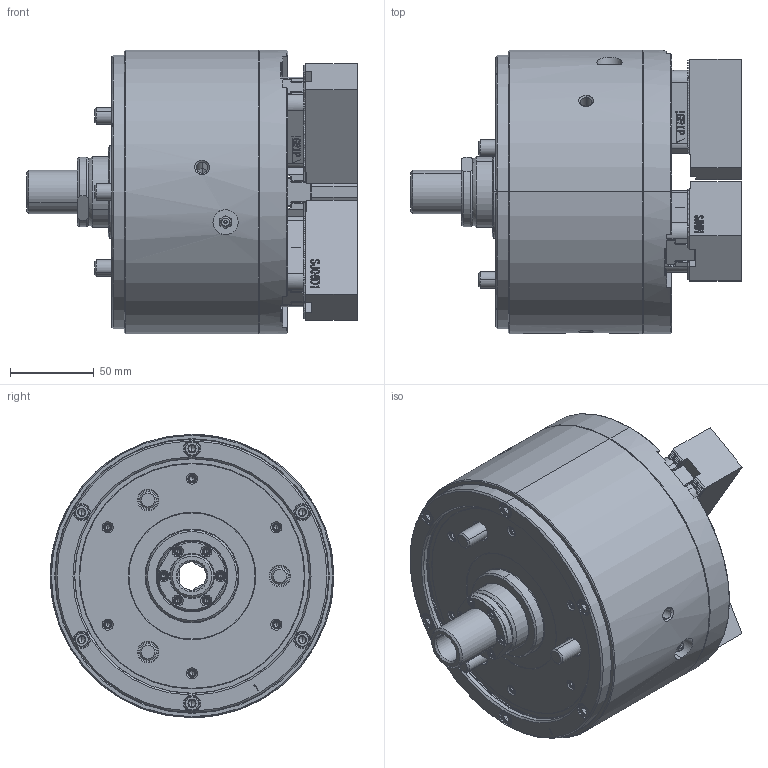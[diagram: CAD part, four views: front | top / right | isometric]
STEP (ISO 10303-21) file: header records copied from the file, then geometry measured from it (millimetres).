
FILE_DESCRIPTION (( 'STEP AP214' ), '1' );
FILE_NAME ('DL206_UC.STEP', '2022-09-07T05:39:19', ( '' ), ( '' ), 'SwSTEP 2.0', 'SolidWorks 2020', '' );
FILE_SCHEMA (( 'AUTOMOTIVE_DESIGN' ));
Length unit declared in the file: millimetre
Products named in the file (5): 61P385747; 0030110025; DL206_UC; 61P456464; 結合DL206_UC^DL206
Assembly tree (13 placements, depth 2):
  DL206_UC
    61P385747  x3
    61P456464  x3
    0030110025  x6
    結合DL206_UC^DL206
Bounding box: 197 x 169 x 169 mm (x, y, z)
Volume: 2459940.6 mm3; surface area: 244810.2 mm2
Topology: 13 solids, 51 shells, 5971 faces, 16377 edges, 10677 vertices
Faces by surface type: plane 3540, bspline 1071, cylinder 707, cone 621, torus 28, sphere 4
Entity records: 192264 total; most frequent: CARTESIAN_POINT 73114, ORIENTED_EDGE 27232, DIRECTION 20327, EDGE_CURVE 13616, VECTOR 9013, LINE 9013, VERTEX_POINT 8955, AXIS2_PLACEMENT_3D 5657
